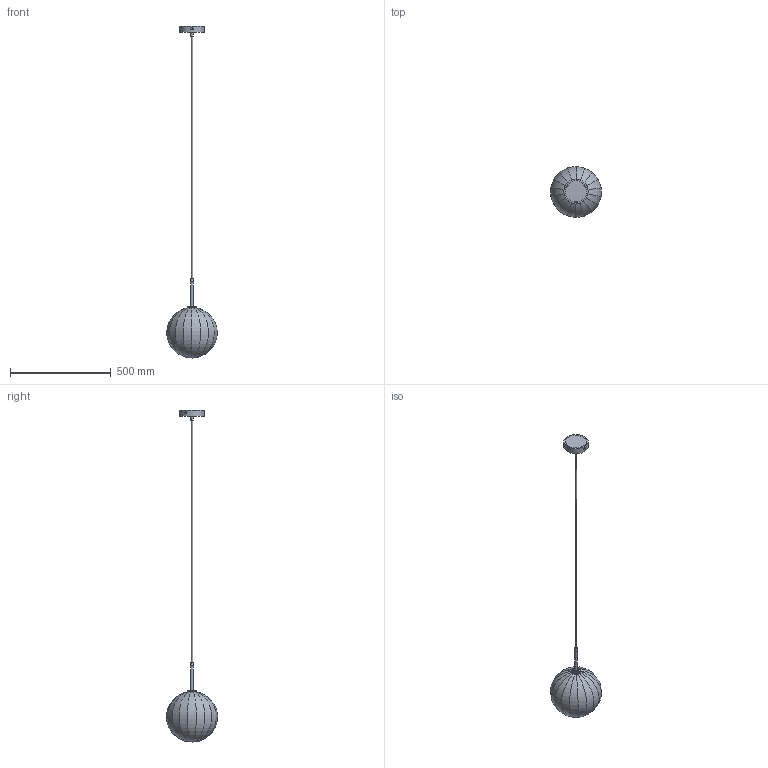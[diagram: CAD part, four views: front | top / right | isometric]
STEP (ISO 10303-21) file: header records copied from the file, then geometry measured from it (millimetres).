
FILE_DESCRIPTION(/* description */ (''),/* implementation_level */ '2;1');
FILE_NAME(/* name */ 'T:\B089 Dries Pendant 250\Pliki bryłowe handlowe\B089 Dries 250 3D files_na stronę\B089 Dries 250.stp',/* time_stamp */ '2022-02-02T13:05:39+01:00',/* author */ ('Mariusz Awariusz'),/* organization */ (''),/* preprocessor_version */ 'ST-DEVELOPER v18.1',/* originating_system */ 'Autodesk Inventor 2022',/* authorisation */ '');
FILE_SCHEMA (('AUTOMOTIVE_DESIGN { 1 0 10303 214 3 1 1 }'));
Length unit declared in the file: millimetre
Products named in the file (1): B089 Dries Pendant 250 CE_na potrzeby plików 3D_2_jako część_
korpusy bryłowe
Bounding box: 249.76 x 253.35 x 1644.2 mm (x, y, z)
Volume: 8727960.4 mm3; surface area: 298796.9 mm2
Topology: 18 solids, 18 shells, 189 faces, 402 edges, 249 vertices
Faces by surface type: plane 91, cylinder 69, cone 27, torus 1, sphere 1
Full cylindrical faces by diameter (mm): 2.693 x3, 3 x3, 3.4 x3, 5.5 x3, 6 x5, 7 x1, 11.6 x1, 13 x4, 20 x1, 22 x2, 25 x1, 43 x1, 45 x1, 120 x1
Entity records: 5197 total; most frequent: CARTESIAN_POINT 1001, DIRECTION 929, ORIENTED_EDGE 804, EDGE_CURVE 402, AXIS2_PLACEMENT_3D 367, VERTEX_POINT 249, EDGE_LOOP 197, LINE 195
